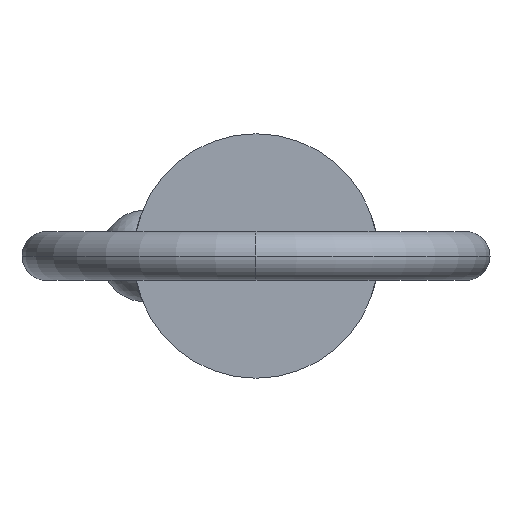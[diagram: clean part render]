
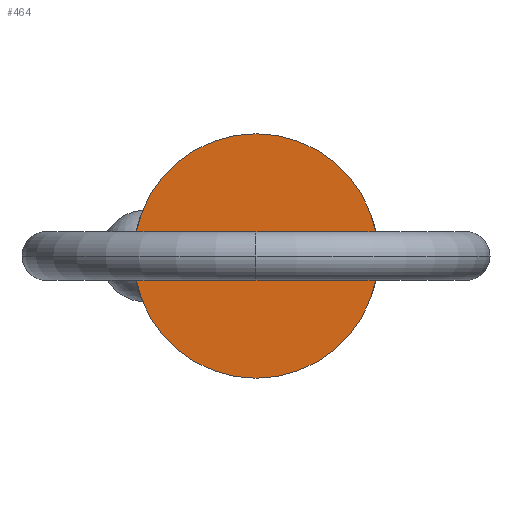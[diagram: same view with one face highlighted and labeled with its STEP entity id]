
A CAD part, left-side view. The second image highlights one B-rep face of the part: STEP entity #464.
In plain terms, the highlighted planar face has unit normal (-1, 0, 0).
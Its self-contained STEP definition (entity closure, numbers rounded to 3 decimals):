
#7 = DIRECTION ( 'NONE',  ( 0., 0., -1. ) ) ;
#48 = ORIENTED_EDGE ( 'NONE', *, *, #234, .F. ) ;
#147 = AXIS2_PLACEMENT_3D ( 'NONE', #467, #753, #865 ) ;
#159 = AXIS2_PLACEMENT_3D ( 'NONE', #524, #163, #741 ) ;
#163 = DIRECTION ( 'NONE',  ( -1., 0., 0. ) ) ;
#234 = EDGE_CURVE ( 'NONE', #623, #628, #552, .T. ) ;
#380 = PLANE ( 'NONE',  #159 ) ;
#389 = CARTESIAN_POINT ( 'NONE',  ( 0., 0., 11.115 ) ) ;
#462 = EDGE_CURVE ( 'NONE', #628, #623, #571, .T. ) ;
#464 = ADVANCED_FACE ( 'NONE', ( #859 ), #380, .T. ) ;
#467 = CARTESIAN_POINT ( 'NONE',  ( 0., 0., 0. ) ) ;
#524 = CARTESIAN_POINT ( 'NONE',  ( 0., 0., 0. ) ) ;
#526 = EDGE_LOOP ( 'NONE', ( #48, #702 ) ) ;
#552 = CIRCLE ( 'NONE', #147, 11.115 ) ;
#571 = CIRCLE ( 'NONE', #687, 11.115 ) ;
#623 = VERTEX_POINT ( 'NONE', #878 ) ;
#628 = VERTEX_POINT ( 'NONE', #389 ) ;
#645 = DIRECTION ( 'NONE',  ( 1., 0., 0. ) ) ;
#687 = AXIS2_PLACEMENT_3D ( 'NONE', #716, #645, #7 ) ;
#702 = ORIENTED_EDGE ( 'NONE', *, *, #462, .F. ) ;
#716 = CARTESIAN_POINT ( 'NONE',  ( 0., 0., 0. ) ) ;
#741 = DIRECTION ( 'NONE',  ( 0., 0., 1. ) ) ;
#753 = DIRECTION ( 'NONE',  ( 1., 0., 0. ) ) ;
#859 = FACE_OUTER_BOUND ( 'NONE', #526, .T. ) ;
#865 = DIRECTION ( 'NONE',  ( 0., 0., -1. ) ) ;
#878 = CARTESIAN_POINT ( 'NONE',  ( 0., 0., -11.115 ) ) ;
